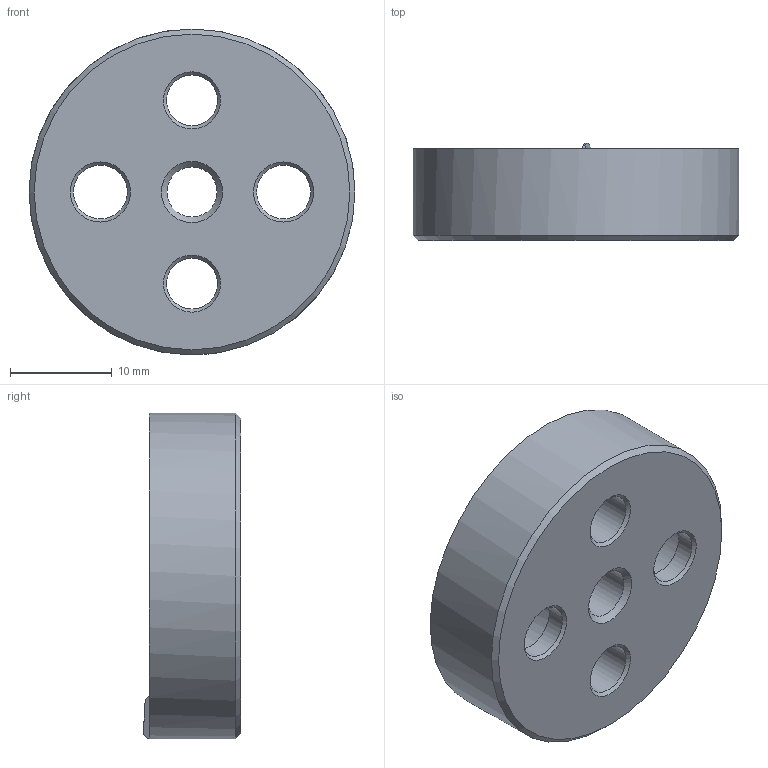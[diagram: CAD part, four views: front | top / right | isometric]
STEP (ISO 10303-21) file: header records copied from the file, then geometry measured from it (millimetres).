
FILE_DESCRIPTION( ( 'STEP AP203' ), '1' );
FILE_NAME( 'C:/Temp/Ganter_Step_05_03_2020/data/3_2/gn187_4/gn187_4_st/Serrated locking plate GN 187.4-32-48-A-ST.stp', '2020-03-13T05:25:32', ( 'License CC BY-ND 4.0' ), ( 'CADENAS' ), ' ', 'PARTsolutions', ' ' );
FILE_SCHEMA( ( 'CONFIG_CONTROL_DESIGN' ) );
Length unit declared in the file: millimetre
Products named in the file (1): _Serrated locking plate GN 187.4-32-48-A-ST
Bounding box: 32 x 9.57 x 32 mm (x, y, z)
Volume: 5380.6 mm3; surface area: 3133.4 mm2
Topology: 1 solids, 1 shells, 36 faces, 94 edges, 60 vertices
Faces by surface type: cone 15, cylinder 12, plane 9
Full cylindrical faces by diameter (mm): 4.917 x1, 5 x2, 5.3 x2, 9.4 x2, 32 x1
Entity records: 1152 total; most frequent: CARTESIAN_POINT 286, DIRECTION 178, ORIENTED_EDGE 146, AXIS2_PLACEMENT_3D 84, EDGE_CURVE 73, EDGE_LOOP 63, VERTEX_POINT 56, FACE_OUTER_BOUND 44
